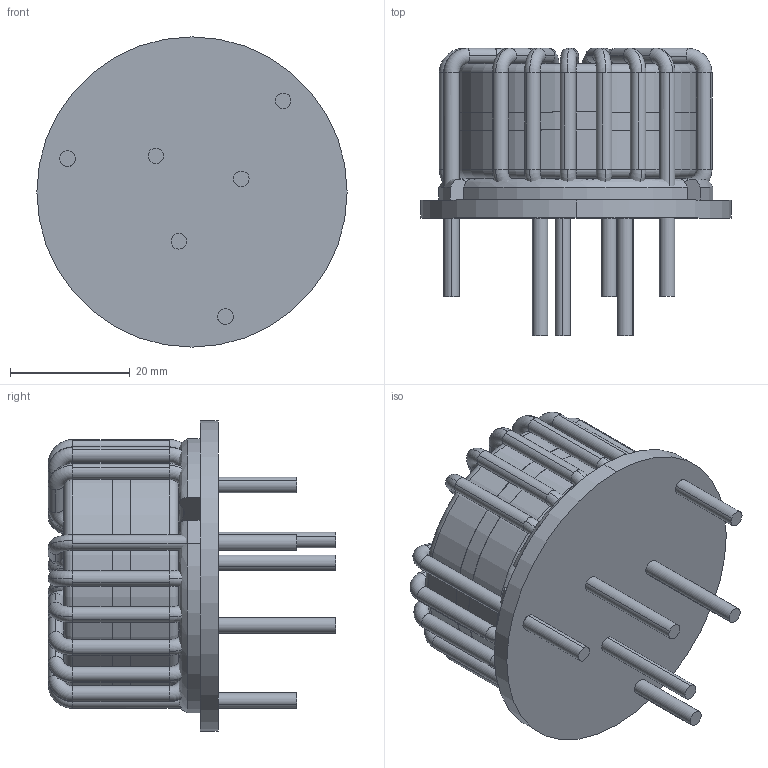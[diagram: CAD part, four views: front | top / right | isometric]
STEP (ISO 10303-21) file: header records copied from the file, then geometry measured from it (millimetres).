
FILE_DESCRIPTION (( 'STEP AP203' ), '1' );
FILE_NAME ('TPW-152U-B30A.STEP', '2020-07-04T07:47:11', ( 'Windows User' ), ( '' ), 'SwSTEP 2.0', 'SolidWorks 2015', '' );
FILE_SCHEMA (( 'CONFIG_CONTROL_DESIGN' ));
Length unit declared in the file: millimetre
Products named in the file (1): TPW-152U-B30A
Bounding box: 51.74 x 47.95 x 51.74 mm (x, y, z)
Volume: 31800.8 mm3; surface area: 24775.5 mm2
Topology: 18 solids, 18 shells, 421 faces, 1138 edges, 750 vertices
Faces by surface type: cylinder 167, torus 152, plane 51, bspline 51
Entity records: 17936 total; most frequent: CARTESIAN_POINT 7113, DIRECTION 2428, ORIENTED_EDGE 2264, EDGE_CURVE 1132, AXIS2_PLACEMENT_3D 1111, VERTEX_POINT 750, CIRCLE 740, EDGE_LOOP 438
